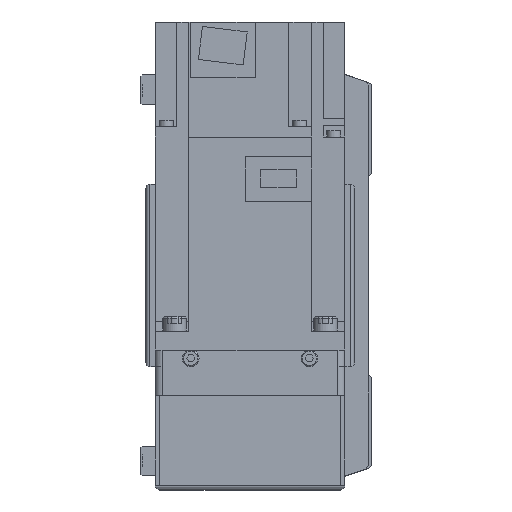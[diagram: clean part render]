
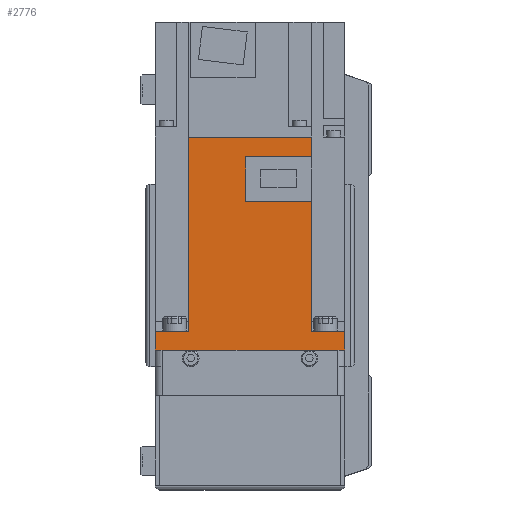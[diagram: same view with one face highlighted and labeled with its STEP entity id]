
A CAD part, left-side view. The second image highlights one B-rep face of the part: STEP entity #2776.
In plain terms, the highlighted planar face has unit normal (-1, 0, 0) as drawn and (1, 0, 0) by its records, which use the part's own axes.
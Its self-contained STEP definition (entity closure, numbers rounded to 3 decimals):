
#2776 = ADVANCED_FACE( '', ( #5886 ), #5887, .F. );
#5886 = FACE_OUTER_BOUND( '', #9194, .T. );
#5887 = PLANE( '', #9195 );
#9194 = EDGE_LOOP( '', ( #16960, #16961, #16962, #16963, #16964, #16965, #16966, #16967, #16968, #16969, #16970, #16971 ) );
#9195 = AXIS2_PLACEMENT_3D( '', #16972, #16973, #16974 );
#16960 = ORIENTED_EDGE( '', *, *, #22009, .F. );
#16961 = ORIENTED_EDGE( '', *, *, #21913, .F. );
#16962 = ORIENTED_EDGE( '', *, *, #19639, .F. );
#16963 = ORIENTED_EDGE( '', *, *, #20262, .T. );
#16964 = ORIENTED_EDGE( '', *, *, #20891, .F. );
#16965 = ORIENTED_EDGE( '', *, *, #21412, .T. );
#16966 = ORIENTED_EDGE( '', *, *, #20599, .T. );
#16967 = ORIENTED_EDGE( '', *, *, #21276, .F. );
#16968 = ORIENTED_EDGE( '', *, *, #21300, .F. );
#16969 = ORIENTED_EDGE( '', *, *, #21914, .F. );
#16970 = ORIENTED_EDGE( '', *, *, #20809, .F. );
#16971 = ORIENTED_EDGE( '', *, *, #19716, .F. );
#16972 = CARTESIAN_POINT( '', ( 40., 89.8, 40. ) );
#16973 = DIRECTION( '', ( -1., 0., 0. ) );
#16974 = DIRECTION( '', ( 0., 0., 1. ) );
#19639 = EDGE_CURVE( '', #23747, #23743, #23749, .T. );
#19716 = EDGE_CURVE( '', #23871, #23872, #23873, .T. );
#20262 = EDGE_CURVE( '', #23747, #24755, #24757, .T. );
#20599 = EDGE_CURVE( '', #25287, #25285, #25288, .T. );
#20809 = EDGE_CURVE( '', #23872, #24825, #25601, .T. );
#20891 = EDGE_CURVE( '', #25719, #24755, #25721, .T. );
#21276 = EDGE_CURVE( '', #26260, #25285, #26262, .T. );
#21300 = EDGE_CURVE( '', #26292, #26260, #26293, .T. );
#21412 = EDGE_CURVE( '', #25719, #25287, #26437, .T. );
#21913 = EDGE_CURVE( '', #23743, #24824, #27071, .T. );
#21914 = EDGE_CURVE( '', #24825, #26292, #27072, .T. );
#22009 = EDGE_CURVE( '', #24824, #23871, #27185, .T. );
#23743 = VERTEX_POINT( '', #29557 );
#23747 = VERTEX_POINT( '', #29563 );
#23749 = LINE( '', #29566, #29567 );
#23871 = VERTEX_POINT( '', #29748 );
#23872 = VERTEX_POINT( '', #29749 );
#23873 = LINE( '', #29750, #29751 );
#24755 = VERTEX_POINT( '', #31038 );
#24757 = LINE( '', #31041, #31042 );
#24824 = VERTEX_POINT( '', #31125 );
#24825 = VERTEX_POINT( '', #31126 );
#25285 = VERTEX_POINT( '', #31880 );
#25287 = VERTEX_POINT( '', #31883 );
#25288 = LINE( '', #31884, #31885 );
#25601 = LINE( '', #32372, #32373 );
#25719 = VERTEX_POINT( '', #32572 );
#25721 = LINE( '', #32575, #32576 );
#26260 = VERTEX_POINT( '', #33363 );
#26262 = LINE( '', #33366, #33367 );
#26292 = VERTEX_POINT( '', #33404 );
#26293 = LINE( '', #33405, #33406 );
#26437 = LINE( '', #33626, #33627 );
#27071 = LINE( '', #34514, #34515 );
#27072 = LINE( '', #34516, #34517 );
#27185 = LINE( '', #34703, #34704 );
#29557 = CARTESIAN_POINT( '', ( 40., 89.8, -25.95 ) );
#29563 = CARTESIAN_POINT( '', ( 40., 89.8, 25.95 ) );
#29566 = CARTESIAN_POINT( '', ( 40., 89.8, 40. ) );
#29567 = VECTOR( '', #36248, 1000. );
#29748 = CARTESIAN_POINT( '', ( 40., 81.4, 1.8 ) );
#29749 = CARTESIAN_POINT( '', ( 40., 62.8, 1.8 ) );
#29750 = CARTESIAN_POINT( '', ( 40., 81.4, 1.8 ) );
#29751 = VECTOR( '', #36347, 1000. );
#31038 = CARTESIAN_POINT( '', ( 40., 8., 25.95 ) );
#31041 = CARTESIAN_POINT( '', ( 40., 158., 25.95 ) );
#31042 = VECTOR( '', #37016, 1000. );
#31125 = CARTESIAN_POINT( '', ( 40., 81.4, -25.95 ) );
#31126 = CARTESIAN_POINT( '', ( 40., 62.8, -25.95 ) );
#31880 = CARTESIAN_POINT( '', ( 40., 0., -40. ) );
#31883 = CARTESIAN_POINT( '', ( 40., 0., 40. ) );
#31884 = CARTESIAN_POINT( '', ( 40., 0., 40. ) );
#31885 = VECTOR( '', #37421, 1000. );
#32372 = CARTESIAN_POINT( '', ( 40., 62.8, 1.8 ) );
#32373 = VECTOR( '', #37670, 1000. );
#32572 = CARTESIAN_POINT( '', ( 40., 8., 40. ) );
#32575 = CARTESIAN_POINT( '', ( 40., 8., 40. ) );
#32576 = VECTOR( '', #37757, 1000. );
#33363 = CARTESIAN_POINT( '', ( 40., 8., -40. ) );
#33366 = CARTESIAN_POINT( '', ( 40., 89.8, -40. ) );
#33367 = VECTOR( '', #38195, 1000. );
#33404 = CARTESIAN_POINT( '', ( 40., 8., -25.95 ) );
#33405 = CARTESIAN_POINT( '', ( 40., 8., 40. ) );
#33406 = VECTOR( '', #38221, 1000. );
#33626 = CARTESIAN_POINT( '', ( 40., 89.8, 40. ) );
#33627 = VECTOR( '', #38346, 1000. );
#34514 = CARTESIAN_POINT( '', ( 40., 158., -25.95 ) );
#34515 = VECTOR( '', #38891, 1000. );
#34516 = CARTESIAN_POINT( '', ( 40., 158., -25.95 ) );
#34517 = VECTOR( '', #38892, 1000. );
#34703 = CARTESIAN_POINT( '', ( 40., 81.4, -26. ) );
#34704 = VECTOR( '', #38964, 1000. );
#36248 = DIRECTION( '', ( 0., 0., -1. ) );
#36347 = DIRECTION( '', ( 0., -1., 0. ) );
#37016 = DIRECTION( '', ( 0., -1., 0. ) );
#37421 = DIRECTION( '', ( 0., 0., -1. ) );
#37670 = DIRECTION( '', ( 0., 0., -1. ) );
#37757 = DIRECTION( '', ( 0., 0., -1. ) );
#38195 = DIRECTION( '', ( 0., -1., 0. ) );
#38221 = DIRECTION( '', ( 0., 0., -1. ) );
#38346 = DIRECTION( '', ( 0., -1., 0. ) );
#38891 = DIRECTION( '', ( 0., -1., 0. ) );
#38892 = DIRECTION( '', ( 0., -1., 0. ) );
#38964 = DIRECTION( '', ( 0., 0., 1. ) );
